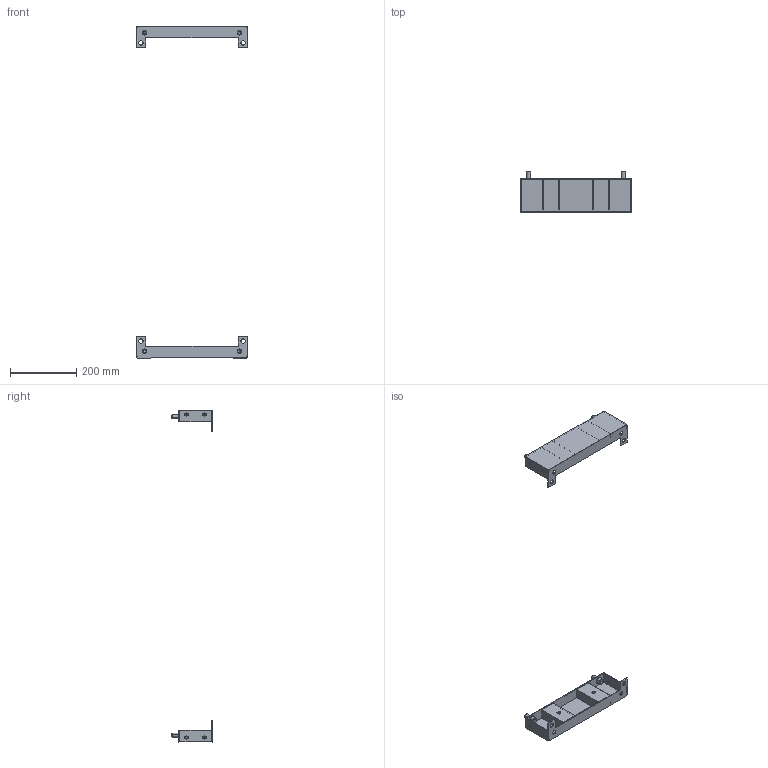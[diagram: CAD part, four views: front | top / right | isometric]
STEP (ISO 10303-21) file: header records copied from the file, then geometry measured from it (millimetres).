
FILE_DESCRIPTION (( 'STEP AP203' ), '1' );
FILE_NAME ('R6PLB40 H=1000.STEP', '2025-05-16T11:42:32', ( '' ), ( '' ), 'SwSTEP 2.0', 'SolidWorks 2022', '' );
FILE_SCHEMA (( 'CONFIG_CONTROL_DESIGN' ));
Length unit declared in the file: millimetre
Products named in the file (8): M12x25 DIN 912 HX cl.8,8 Zinc_stright; RB.3309.00.00.0 СБ simple_-02; 12 DIN 6798 A Zinc; M6 MGS-MPO-0635_thread; RB.3309.00.02.0 simple; R6PLB40 H=1000; M6 MGS-MPO-0635_straight; RB.3309.00.01.0 simple_-02
Assembly tree (19 placements, depth 3):
  R6PLB40 H=1000
    RB.3309.00.00.0 СБ simple_-02  x2
      RB.3309.00.01.0 simple_-02
      M6 MGS-MPO-0635_thread
      RB.3309.00.02.0 simple
      M6 MGS-MPO-0635_straight
    12 DIN 6798 A Zinc  x4
    M12x25 DIN 912 HX cl.8,8 Zinc_stright  x4
Bounding box: 336.7 x 121.5 x 1000 mm (x, y, z)
Volume: 435300.7 mm3; surface area: 360525.4 mm2
Topology: 26 solids, 26 shells, 1568 faces, 4128 edges, 2388 vertices
Faces by surface type: plane 640, cylinder 544, bspline 168, sphere 144, cone 40, torus 32
Entity records: 15002 total; most frequent: CARTESIAN_POINT 5755, ORIENTED_EDGE 1768, DIRECTION 1539, EDGE_CURVE 884, VERTEX_POINT 558, LINE 533, VECTOR 533, AXIS2_PLACEMENT_3D 503
